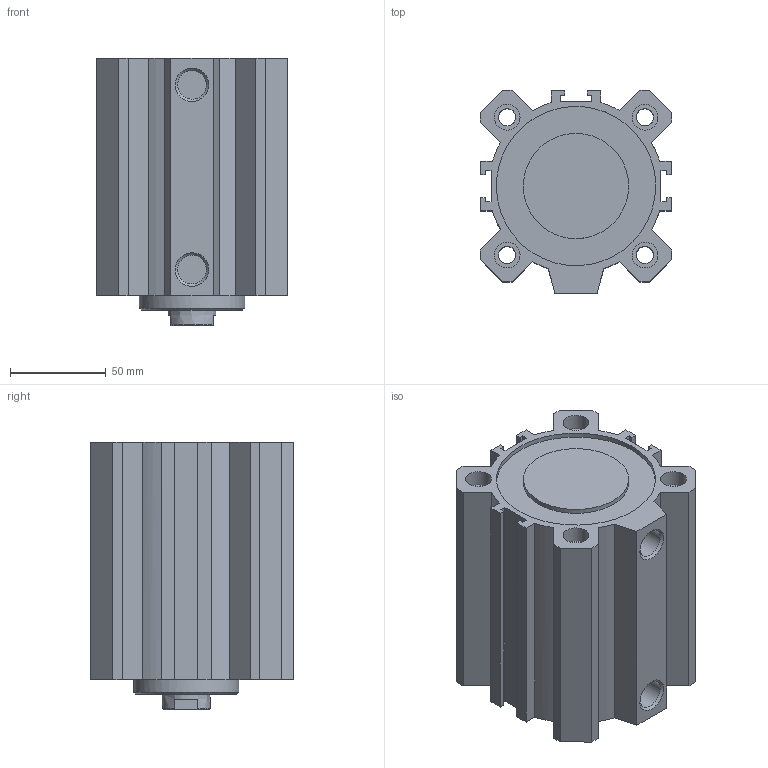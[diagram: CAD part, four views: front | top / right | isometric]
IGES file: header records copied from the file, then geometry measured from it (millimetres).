
Global section: file name: 1511_80_0075; native system: Autodesk Inventor 2014; preprocessor: unknown; author: A. Manieri; date: 20160824.142250; units: millimetre
Bounding box: 100 x 106 x 139.5 mm (x, y, z)
Volume: 679716.3 mm3; surface area: 158803.8 mm2
Topology: 2 solids, 2 shells, 119 faces, 307 edges, 210 vertices
Faces by surface type: bspline 119
